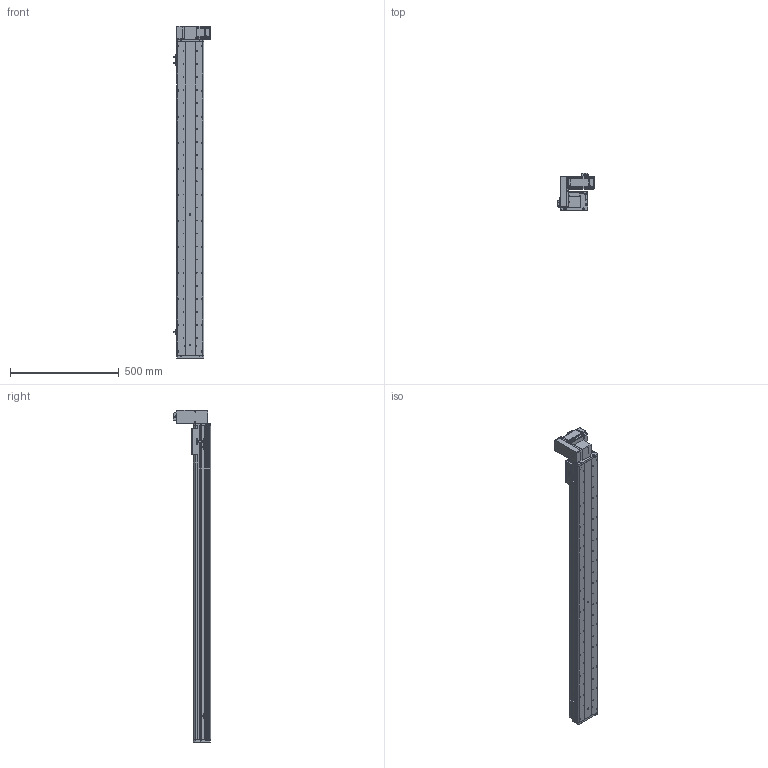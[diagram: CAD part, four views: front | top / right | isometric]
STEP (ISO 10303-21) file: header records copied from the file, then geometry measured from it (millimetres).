
FILE_DESCRIPTION (( 'STEP AP214' ), '1' );
FILE_NAME ('KSD125B-S1250-MRU-CM.STEP', '2017-10-21T07:46:00', ( '微软用户' ), ( '微软中国' ), 'SwSTEP 2.0', 'SolidWorks 2014', '' );
FILE_SCHEMA (( 'AUTOMOTIVE_DESIGN' ));
Length unit declared in the file: millimetre
Products named in the file (17): 125模组1250行程同步带-底板; MHMD042G1CA_2_03; KSD125模组同步带-防撞垫2; 覜茼え68遵圉猾敕; U倰嫖萇假蚾璃; U倰嫖萇EEㄜSX672; KSD125模组同步带-防撞垫1; 100宽马达安装板同步带右; 前端板-125宽模组同步带; 125模组同步带-尾端板1; KSD125模组同步带-滑动座1; KSD125B-S1250-MRU-CM; 悵誘欶奻狟殏; HTPA30S3M150_A_H6_a佪裝蚚; HTPA30S3M150_A_H6_a萇儂蚚; 100宽马达安装板连板上下折丝杆同步带; KSD125模组1250行程同步带-防尘盖
Assembly tree (20 placements, depth 2):
  KSD125B-S1250-MRU-CM
    KSD125模组同步带-滑动座1
    125模组同步带-尾端板1
    前端板-125宽模组同步带
    100宽马达安装板同步带右
    KSD125模组同步带-防撞垫1
    U倰嫖萇EEㄜSX672  x3
    U倰嫖萇假蚾璃  x3
    覜茼え68遵圉猾敕
    KSD125模组同步带-防撞垫2
    MHMD042G1CA_2_03
    125模组1250行程同步带-底板
    KSD125模组1250行程同步带-防尘盖
    100宽马达安装板连板上下折丝杆同步带
    HTPA30S3M150_A_H6_a萇儂蚚
    HTPA30S3M150_A_H6_a佪裝蚚
    悵誘欶奻狟殏
Bounding box: 168.7 x 170.5 x 1527 mm (x, y, z)
Volume: 4593908.6 mm3; surface area: 1530443.9 mm2
Topology: 19 solids, 22 shells, 2347 faces, 6805 edges, 4498 vertices
Faces by surface type: cylinder 1488, plane 732, cone 105, bspline 22
Entity records: 83843 total; most frequent: CARTESIAN_POINT 16515, DIRECTION 13026, ORIENTED_EDGE 12130, EDGE_CURVE 6143, AXIS2_PLACEMENT_3D 5049, VERTEX_POINT 4090, VECTOR 2928, LINE 2928
